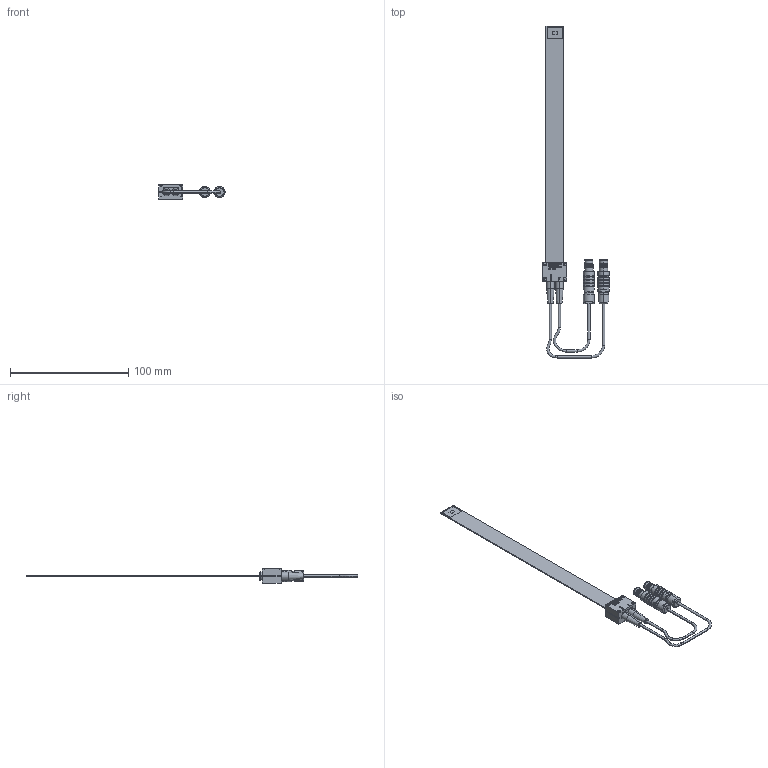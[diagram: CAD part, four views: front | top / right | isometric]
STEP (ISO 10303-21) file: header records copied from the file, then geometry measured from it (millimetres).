
FILE_DESCRIPTION((''),'2;1');
FILE_NAME('Z6610112-A_ASM','2011-05-30T',('11000065'),(''),'PRO/ENGINEER BY PARAMETRIC TECHNOLOGY CORPORATION, 2010480','PRO/ENGINEER BY PARAMETRIC TECHNOLOGY CORPORATION, 2010480','');
FILE_SCHEMA(('AUTOMOTIVE_DESIGN { 1 0 10303 214 1 1 1 1 }'));
Length unit declared in the file: millimetre
Products named in the file (9): ZT_22049_A; ZT_22050_A; PLATINE-0_5; HULESE; KABEL_AF0; KABEL2_AF0; 0323139; DIN963-M1_6X10; Z6610112-A_ASM
Assembly tree (13 placements, depth 2):
  Z6610112-A_ASM
    ZT_22049_A
    ZT_22050_A
    PLATINE-0_5
    HULESE  x2
    KABEL_AF0
    KABEL2_AF0
    0323139  x2
    DIN963-M1_6X10  x4
Bounding box: 56 x 281 x 12.07 mm (x, y, z)
Volume: 11003 mm3; surface area: 15061.2 mm2
Topology: 13 solids, 13 shells, 1600 faces, 4347 edges, 2844 vertices
Faces by surface type: plane 1334, cylinder 126, cone 80, torus 52, bspline 8
Entity records: 60687 total; most frequent: CARTESIAN_POINT 9133, ORIENTED_EDGE 8076, DIRECTION 7221, PRESENTATION_STYLE_ASSIGNMENT 4194, STYLED_ITEM 4047, CURVE_STYLE 4038, EDGE_CURVE 4038, VECTOR 3755
